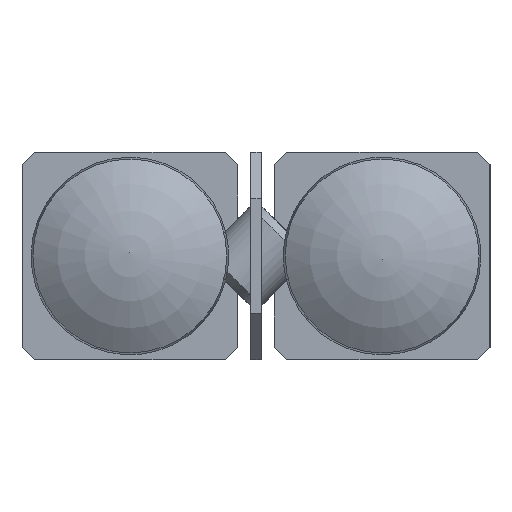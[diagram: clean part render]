
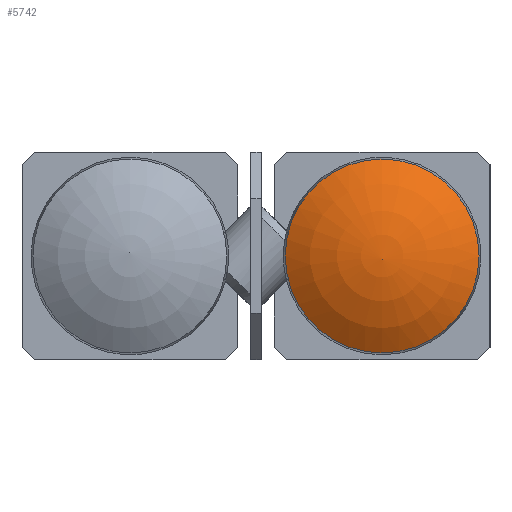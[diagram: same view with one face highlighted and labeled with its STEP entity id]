
A CAD part, left-side view. The second image highlights one B-rep face of the part: STEP entity #5742.
In plain terms, the highlighted toroidal (fillet/blend) face has major radius 0.059 mm and minor radius 6.5 mm.
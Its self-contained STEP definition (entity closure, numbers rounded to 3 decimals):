
#120=VERTEX_LOOP('',#2784);
#124=DEGENERATE_TOROIDAL_SURFACE('',#6158,0.059,6.5,
 .F.);
#282=CIRCLE('',#6157,3.728);
#561=ORIENTED_EDGE('',*,*,#2027,.F.);
#2027=EDGE_CURVE('',#2783,#2783,#282,.T.);
#2783=VERTEX_POINT('',#8560);
#2784=VERTEX_POINT('',#8562);
#4413=EDGE_LOOP('',(#561));
#4987=FACE_BOUND('',#120,.T.);
#4988=FACE_BOUND('',#4413,.T.);
#5742=ADVANCED_FACE('',(#4987,#4988),#124,.F.);
#6157=AXIS2_PLACEMENT_3D('',#8559,#6874,#6875);
#6158=AXIS2_PLACEMENT_3D('',#8561,#6876,#6877);
#6874=DIRECTION('',(1.,0.,0.));
#6875=DIRECTION('',(0.,0.,-1.));
#6876=DIRECTION('',(1.,0.,0.));
#6877=DIRECTION('',(0.,0.,-1.));
#8559=CARTESIAN_POINT('',(1.217,-4.85,0.));
#8560=CARTESIAN_POINT('',(1.217,-4.85,-3.728));
#8561=CARTESIAN_POINT('',(6.5,-4.85,0.));
#8562=CARTESIAN_POINT('',(0.,-4.85,0.));
